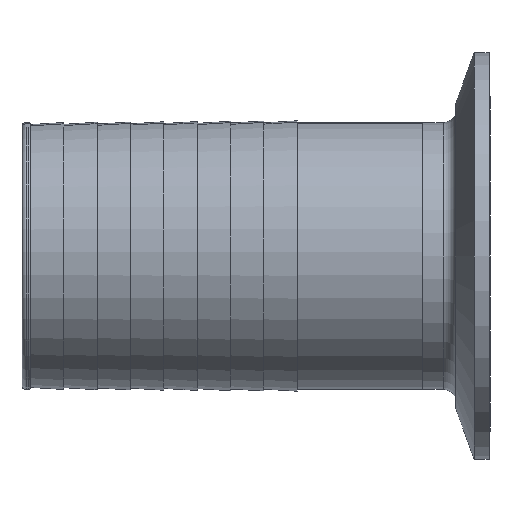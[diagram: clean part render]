
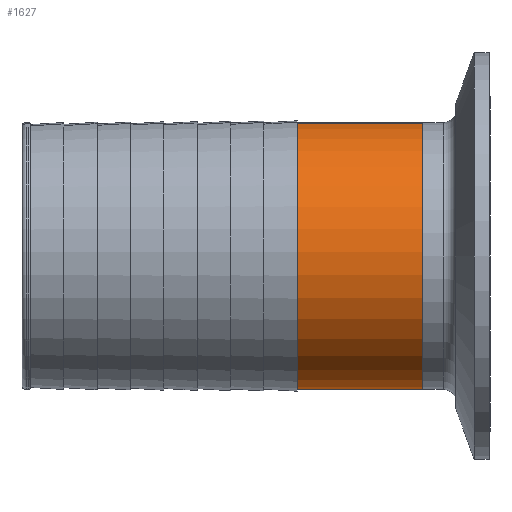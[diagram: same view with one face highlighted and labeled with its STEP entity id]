
A CAD part, left-side view. The second image highlights one B-rep face of the part: STEP entity #1627.
In plain terms, the highlighted cylindrical face has radius 25.4 mm (diameter 50.8 mm), a partial arc.
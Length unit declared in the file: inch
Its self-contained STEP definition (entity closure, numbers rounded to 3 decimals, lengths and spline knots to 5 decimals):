
#129 = VERTEX_POINT ( 'NONE', #324 ) ;
#245 = DIRECTION ( 'NONE',  ( 1., 0., 0. ) ) ;
#280 = ORIENTED_EDGE ( 'NONE', *, *, #575, .T. ) ;
#324 = CARTESIAN_POINT ( 'NONE',  ( 0., 0., 1. ) ) ;
#505 = LINE ( 'NONE', #1677, #1729 ) ;
#550 = VECTOR ( 'NONE', #1146, 39.37008 ) ;
#575 = EDGE_CURVE ( 'NONE', #731, #889, #1780, .T. ) ;
#621 = EDGE_CURVE ( 'NONE', #889, #706, #505, .T. ) ;
#706 = VERTEX_POINT ( 'NONE', #1059 ) ;
#727 = DIRECTION ( 'NONE',  ( 1., 0., 0. ) ) ;
#731 = VERTEX_POINT ( 'NONE', #1226 ) ;
#780 = DIRECTION ( 'NONE',  ( 0., 0., -1. ) ) ;
#792 = AXIS2_PLACEMENT_3D ( 'NONE', #864, #1986, #1031 ) ;
#864 = CARTESIAN_POINT ( 'NONE',  ( -0.93794, 0., 0. ) ) ;
#877 = ORIENTED_EDGE ( 'NONE', *, *, #621, .T. ) ;
#883 = CYLINDRICAL_SURFACE ( 'NONE', #1839, 1. ) ;
#889 = VERTEX_POINT ( 'NONE', #942 ) ;
#903 = ORIENTED_EDGE ( 'NONE', *, *, #2006, .F. ) ;
#942 = CARTESIAN_POINT ( 'NONE',  ( -0.93794, 0., -1. ) ) ;
#1031 = DIRECTION ( 'NONE',  ( 0., 0., -1. ) ) ;
#1059 = CARTESIAN_POINT ( 'NONE',  ( 0., 0., -1. ) ) ;
#1107 = CARTESIAN_POINT ( 'NONE',  ( 0., 0., 0. ) ) ;
#1127 = EDGE_CURVE ( 'NONE', #731, #129, #1404, .T. ) ;
#1146 = DIRECTION ( 'NONE',  ( 1., 0., 0. ) ) ;
#1226 = CARTESIAN_POINT ( 'NONE',  ( -0.93794, 0., 1. ) ) ;
#1404 = LINE ( 'NONE', #1944, #550 ) ;
#1434 = AXIS2_PLACEMENT_3D ( 'NONE', #1684, #727, #1843 ) ;
#1627 = ADVANCED_FACE ( 'NONE', ( #1789 ), #883, .T. ) ;
#1673 = ORIENTED_EDGE ( 'NONE', *, *, #1127, .F. ) ;
#1677 = CARTESIAN_POINT ( 'NONE',  ( 0., 0., -1. ) ) ;
#1684 = CARTESIAN_POINT ( 'NONE',  ( 0., 0., 0. ) ) ;
#1710 = EDGE_LOOP ( 'NONE', ( #1673, #280, #877, #903 ) ) ;
#1729 = VECTOR ( 'NONE', #245, 39.37008 ) ;
#1765 = CIRCLE ( 'NONE', #1434, 1. ) ;
#1780 = CIRCLE ( 'NONE', #792, 1. ) ;
#1789 = FACE_OUTER_BOUND ( 'NONE', #1710, .T. ) ;
#1839 = AXIS2_PLACEMENT_3D ( 'NONE', #1107, #2057, #780 ) ;
#1843 = DIRECTION ( 'NONE',  ( 0., 0., -1. ) ) ;
#1944 = CARTESIAN_POINT ( 'NONE',  ( 0., 0., 1. ) ) ;
#1986 = DIRECTION ( 'NONE',  ( 1., 0., 0. ) ) ;
#2006 = EDGE_CURVE ( 'NONE', #129, #706, #1765, .T. ) ;
#2057 = DIRECTION ( 'NONE',  ( 1., 0., 0. ) ) ;
